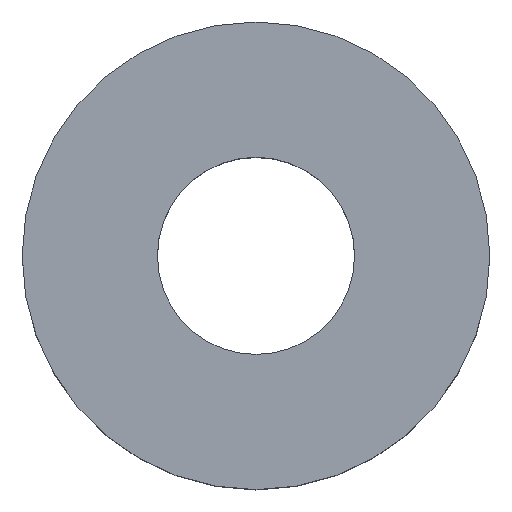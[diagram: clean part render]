
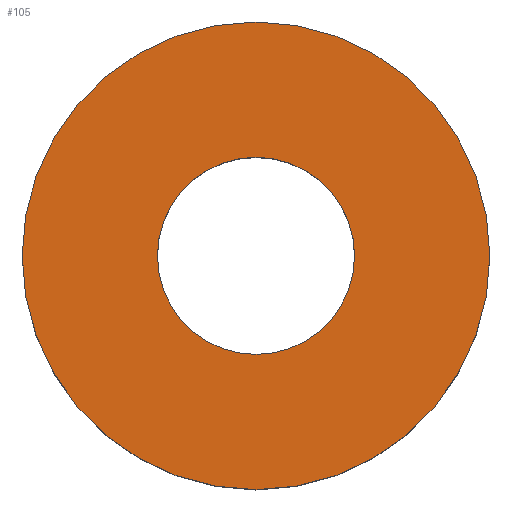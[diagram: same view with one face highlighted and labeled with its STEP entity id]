
A CAD part, top view. The second image highlights one B-rep face of the part: STEP entity #105.
In plain terms, the highlighted planar face has unit normal (0, 0, 1).
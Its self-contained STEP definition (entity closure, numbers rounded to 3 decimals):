
#21 = EDGE_CURVE('',#22,#22,#24,.T.);
#22 = VERTEX_POINT('',#23);
#23 = CARTESIAN_POINT('',(3.5,0.,2.7));
#24 = SURFACE_CURVE('',#25,(#30,#42),.PCURVE_S1.);
#25 = CIRCLE('',#26,3.5);
#26 = AXIS2_PLACEMENT_3D('',#27,#28,#29);
#27 = CARTESIAN_POINT('',(0.,0.,2.7));
#28 = DIRECTION('',(0.,0.,1.));
#29 = DIRECTION('',(1.,0.,-0.));
#30 = PCURVE('',#31,#36);
#31 = CYLINDRICAL_SURFACE('',#32,3.5);
#32 = AXIS2_PLACEMENT_3D('',#33,#34,#35);
#33 = CARTESIAN_POINT('',(0.,0.,0.));
#34 = DIRECTION('',(0.,0.,1.));
#35 = DIRECTION('',(1.,0.,-0.));
#36 = DEFINITIONAL_REPRESENTATION('',(#37),#41);
#37 = LINE('',#38,#39);
#38 = CARTESIAN_POINT('',(0.,2.7));
#39 = VECTOR('',#40,1.);
#40 = DIRECTION('',(1.,0.));
#41 = ( GEOMETRIC_REPRESENTATION_CONTEXT(2) 
PARAMETRIC_REPRESENTATION_CONTEXT() REPRESENTATION_CONTEXT('2D SPACE',''
  ) );
#42 = PCURVE('',#43,#48);
#43 = PLANE('',#44);
#44 = AXIS2_PLACEMENT_3D('',#45,#46,#47);
#45 = CARTESIAN_POINT('',(0.,0.,2.7));
#46 = DIRECTION('',(0.,0.,1.));
#47 = DIRECTION('',(1.,0.,-0.));
#48 = DEFINITIONAL_REPRESENTATION('',(#49),#53);
#49 = CIRCLE('',#50,3.5);
#50 = AXIS2_PLACEMENT_2D('',#51,#52);
#51 = CARTESIAN_POINT('',(0.,0.));
#52 = DIRECTION('',(1.,0.));
#53 = ( GEOMETRIC_REPRESENTATION_CONTEXT(2) 
PARAMETRIC_REPRESENTATION_CONTEXT() REPRESENTATION_CONTEXT('2D SPACE',''
  ) );
#105 = ADVANCED_FACE('',(#106,#109),#43,.T.);
#106 = FACE_BOUND('',#107,.T.);
#107 = EDGE_LOOP('',(#108));
#108 = ORIENTED_EDGE('',*,*,#21,.T.);
#109 = FACE_BOUND('',#110,.T.);
#110 = EDGE_LOOP('',(#111));
#111 = ORIENTED_EDGE('',*,*,#112,.F.);
#112 = EDGE_CURVE('',#113,#113,#115,.T.);
#113 = VERTEX_POINT('',#114);
#114 = CARTESIAN_POINT('',(1.475,0.,2.7));
#115 = SURFACE_CURVE('',#116,(#121,#128),.PCURVE_S1.);
#116 = CIRCLE('',#117,1.475);
#117 = AXIS2_PLACEMENT_3D('',#118,#119,#120);
#118 = CARTESIAN_POINT('',(0.,0.,2.7));
#119 = DIRECTION('',(0.,0.,1.));
#120 = DIRECTION('',(1.,0.,-0.));
#121 = PCURVE('',#43,#122);
#122 = DEFINITIONAL_REPRESENTATION('',(#123),#127);
#123 = CIRCLE('',#124,1.475);
#124 = AXIS2_PLACEMENT_2D('',#125,#126);
#125 = CARTESIAN_POINT('',(0.,0.));
#126 = DIRECTION('',(1.,0.));
#127 = ( GEOMETRIC_REPRESENTATION_CONTEXT(2) 
PARAMETRIC_REPRESENTATION_CONTEXT() REPRESENTATION_CONTEXT('2D SPACE',''
  ) );
#128 = PCURVE('',#129,#134);
#129 = CYLINDRICAL_SURFACE('',#130,1.475);
#130 = AXIS2_PLACEMENT_3D('',#131,#132,#133);
#131 = CARTESIAN_POINT('',(0.,0.,-1.));
#132 = DIRECTION('',(0.,0.,1.));
#133 = DIRECTION('',(1.,0.,-0.));
#134 = DEFINITIONAL_REPRESENTATION('',(#135),#139);
#135 = LINE('',#136,#137);
#136 = CARTESIAN_POINT('',(0.,3.7));
#137 = VECTOR('',#138,1.);
#138 = DIRECTION('',(1.,0.));
#139 = ( GEOMETRIC_REPRESENTATION_CONTEXT(2) 
PARAMETRIC_REPRESENTATION_CONTEXT() REPRESENTATION_CONTEXT('2D SPACE',''
  ) );
